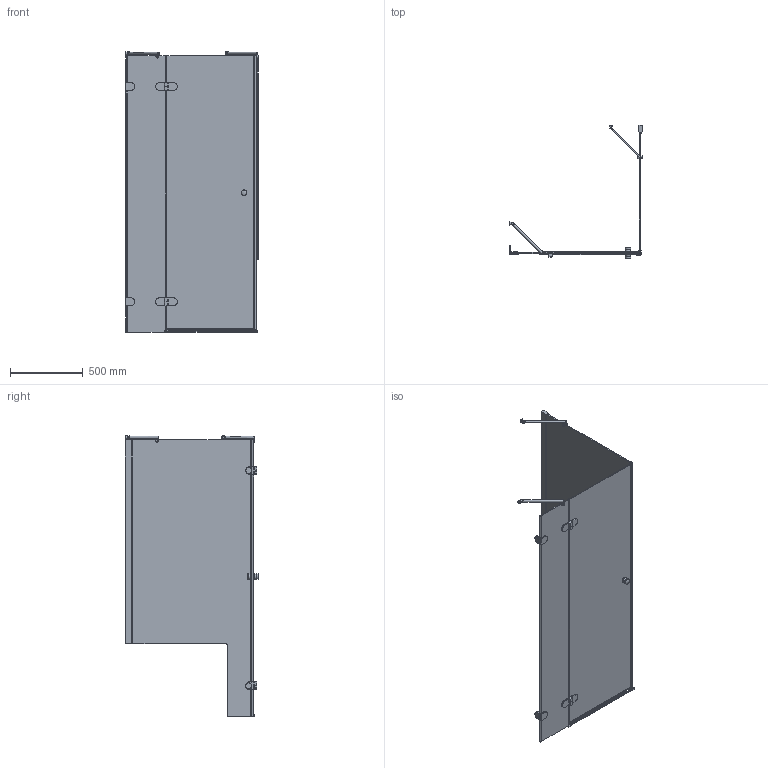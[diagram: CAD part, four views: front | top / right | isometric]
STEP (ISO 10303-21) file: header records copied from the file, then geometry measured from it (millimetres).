
FILE_DESCRIPTION(/* description */ (''),/* implementation_level */ '2;1');
FILE_NAME(/* name */ 'D:\4\LUX SQUARE GK-003V1P\LUX SQUARE GK-003V1P левая модель\LUX SQUARE GK-003V1P ЛЕВАЯ-3D.stp',/* time_stamp */ '2017-05-22T09:24:26+03:00',/* author */ ('ChechurovS'),/* organization */ (''),/* preprocessor_version */ 'ST-DEVELOPER v15.2',/* originating_system */ 'Autodesk Inventor 2014',/* authorisation */ '');
FILE_SCHEMA (('CONFIG_CONTROL_DESIGN'));
Length unit declared in the file: millimetre
Products named in the file (1): LUX SQUARE GK-003V1P ЛЕВАЯ-3D
Bounding box: 913.8 x 917.14 x 1931.5 mm (x, y, z)
Volume: 23608479.5 mm3; surface area: 6449189.9 mm2
Topology: 6 solids, 6 shells, 567 faces, 1550 edges, 1021 vertices
Faces by surface type: plane 368, cylinder 158, torus 19, bspline 10, sphere 10, cone 2
Full cylindrical faces by diameter (mm): 12 x2, 15 x2, 20 x4, 26 x2, 35 x2, 38 x4, 40 x2
Entity records: 19283 total; most frequent: CARTESIAN_POINT 4388, ORIENTED_EDGE 2984, DIRECTION 2920, EDGE_CURVE 1492, LINE 1054, VECTOR 1054, VERTEX_POINT 997, AXIS2_PLACEMENT_3D 933
